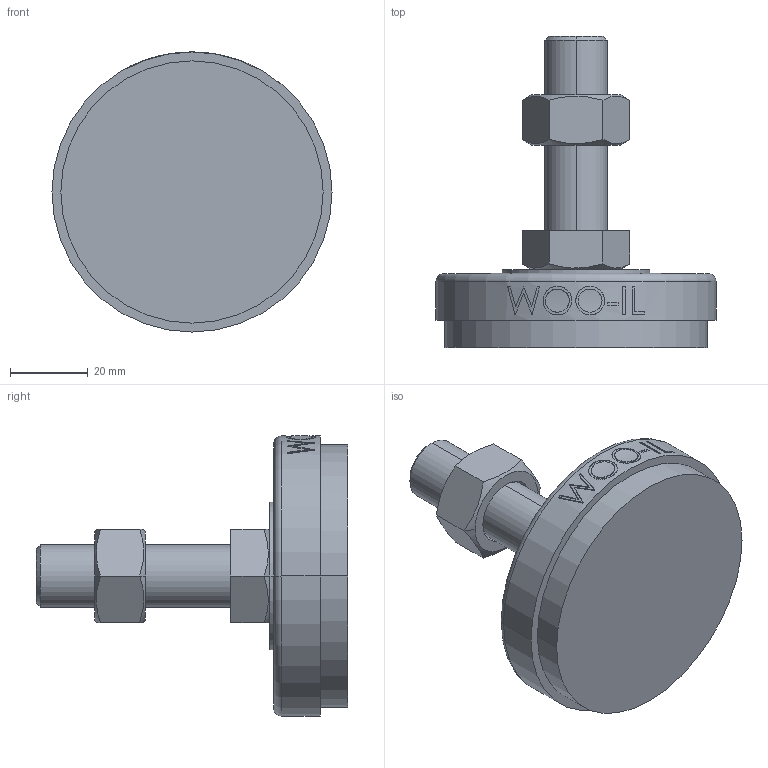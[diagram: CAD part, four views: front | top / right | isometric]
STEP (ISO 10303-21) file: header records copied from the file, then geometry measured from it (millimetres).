
FILE_DESCRIPTION (( 'STEP AP214' ), '1' );
FILE_NAME ('NS72-M16-50.step', '2021-01-11T05:48:02', ( '' ), ( '' ), 'SwSTEP 2.0', 'SolidWorks 2019', '' );
FILE_SCHEMA (( 'AUTOMOTIVE_DESIGN' ));
Length unit declared in the file: millimetre
Products named in the file (2): NS72-M16-50
Bounding box: 72 x 80 x 72 mm (x, y, z)
Volume: 93516.3 mm3; surface area: 18769.9 mm2
Topology: 3 solids, 3 shells, 96 faces, 223 edges, 144 vertices
Faces by surface type: plane 48, cylinder 18, bspline 16, cone 12, torus 2
Entity records: 4262 total; most frequent: CARTESIAN_POINT 2137, ORIENTED_EDGE 446, DIRECTION 381, EDGE_CURVE 223, VERTEX_POINT 144, AXIS2_PLACEMENT_3D 142, EDGE_LOOP 109, LINE 97
